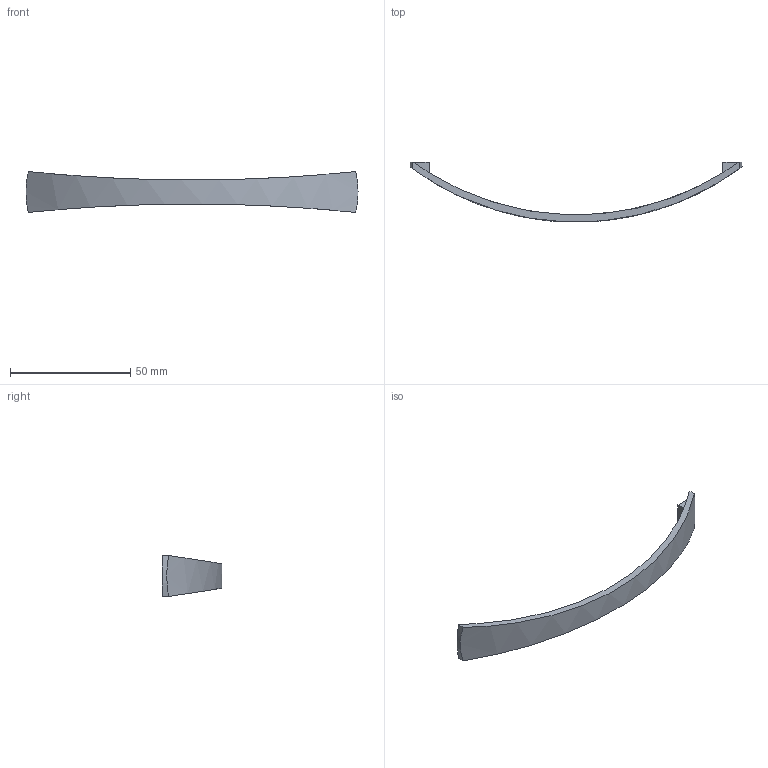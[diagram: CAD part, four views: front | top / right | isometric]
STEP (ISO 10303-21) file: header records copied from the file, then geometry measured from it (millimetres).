
FILE_DESCRIPTION( ( '' ), '1' );
FILE_NAME( 'D:/1.AUTOCAD EXPORT/Group 10/sheet_10_1/9113467.stp', '2013-10-18T08:35:39', ( '' ), ( '' ), ' ', ' ', ' ' );
FILE_SCHEMA( ( 'automotive_design' ) );
Length unit declared in the file: millimetre
Products named in the file (1): 1
Bounding box: 138 x 24.91 x 17 mm (x, y, z)
Volume: 5315.4 mm3; surface area: 4768.5 mm2
Topology: 1 solids, 1 shells, 22 faces, 56 edges, 38 vertices
Faces by surface type: cylinder 12, plane 10
Entity records: 1476 total; most frequent: CARTESIAN_POINT 273, STYLED_ITEM 117, PRESENTATION_STYLE_ASSIGNMENT 117, COLOUR_RGB 117, ORIENTED_EDGE 112, DIRECTION 108, EDGE_CURVE 56, CURVE_STYLE 56
